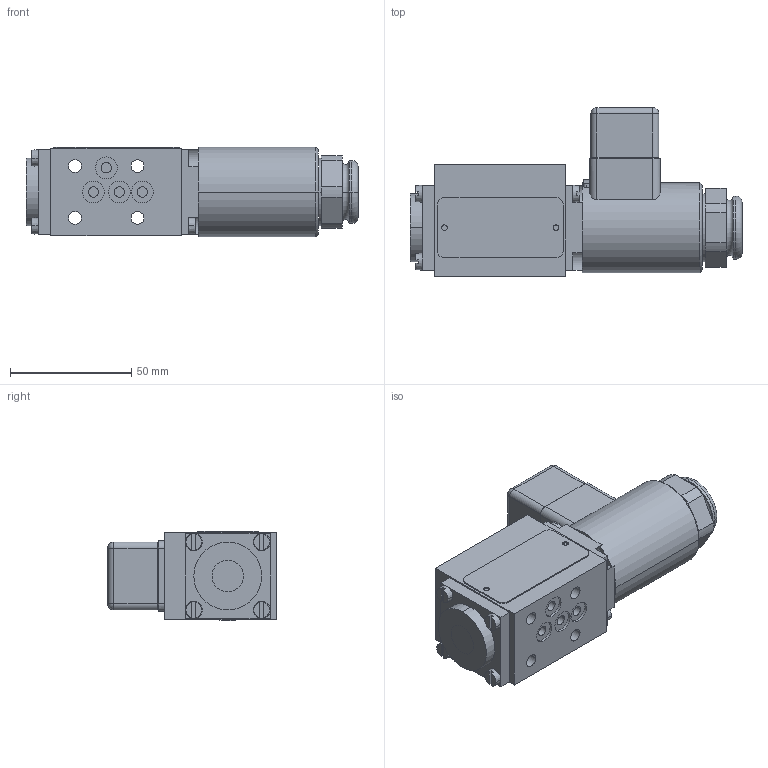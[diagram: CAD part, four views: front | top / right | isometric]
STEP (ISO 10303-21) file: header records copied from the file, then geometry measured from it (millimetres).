
FILE_DESCRIPTION((''),'2;1');
FILE_NAME('RPE2-043-3_ASM','2019-08-21T',('j.koudelka'),(''),'PRO/ENGINEER BY PARAMETRIC TECHNOLOGY CORPORATION, 2015440','PRO/ENGINEER BY PARAMETRIC TECHNOLOGY CORPORATION, 2015440','');
FILE_SCHEMA(('AUTOMOTIVE_DESIGN { 1 0 10303 214 1 1 1 1 }'));
Length unit declared in the file: millimetre
Products named in the file (7): RPE2-043-3_AF1; 32246100; C19B_E1; RD_LABEL_25X52_159703; ISO_1207_M4X12_202229; ZATKA2_AF0; RPE2-043-3_ASM
Assembly tree (12 placements, depth 2):
  RPE2-043-3_ASM
    RPE2-043-3_AF1
    32246100
    C19B_E1
    RD_LABEL_25X52_159703
    ISO_1207_M4X12_202229  x7
    ZATKA2_AF0
Bounding box: 136.9 x 69.5 x 37 mm (x, y, z)
Volume: 193260.1 mm3; surface area: 48815.4 mm2
Topology: 12 solids, 21 shells, 318 faces, 873 edges, 683 vertices
Faces by surface type: cylinder 143, plane 137, cone 26, torus 8, sphere 4
Entity records: 11699 total; most frequent: DIRECTION 1483, CARTESIAN_POINT 1473, ORIENTED_EDGE 1062, PRESENTATION_STYLE_ASSIGNMENT 811, STYLED_ITEM 712, CURVE_STYLE 689, AXIS2_PLACEMENT_3D 548, EDGE_CURVE 535
